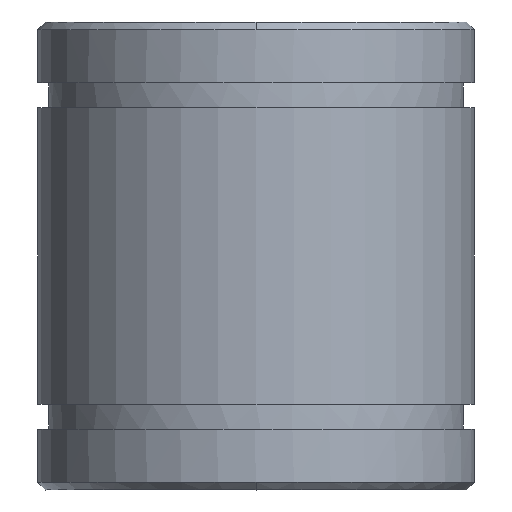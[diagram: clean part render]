
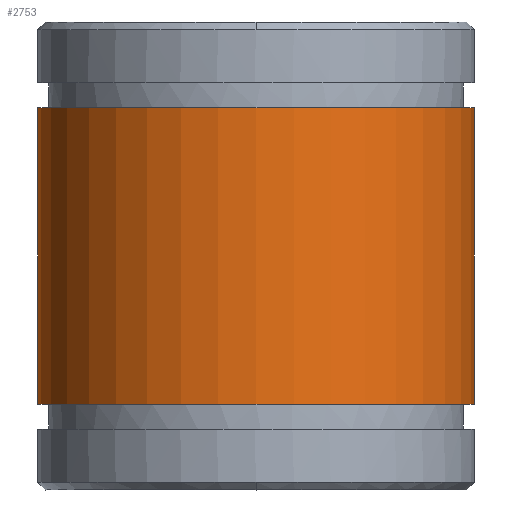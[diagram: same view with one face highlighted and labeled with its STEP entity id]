
A CAD part, front view. The second image highlights one B-rep face of the part: STEP entity #2753.
In plain terms, the highlighted cylindrical face has radius 14 mm (diameter 28 mm), a partial arc.
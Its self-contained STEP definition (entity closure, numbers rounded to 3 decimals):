
#2652=CARTESIAN_POINT('Axis2P3D Location',(0.,0.,5.5)) ;
#2656=CARTESIAN_POINT('Vertex',(-14.,0.,5.5)) ;
#2658=CARTESIAN_POINT('Vertex',(14.,0.,5.5)) ;
#2723=CARTESIAN_POINT('Axis2P3D Location',(0.,0.,-1.5)) ;
#2728=CARTESIAN_POINT('Line Origine',(-14.,0.,-1.5)) ;
#2732=CARTESIAN_POINT('Vertex',(-14.,0.,24.5)) ;
#2735=CARTESIAN_POINT('Line Origine',(14.,0.,-1.5)) ;
#2739=CARTESIAN_POINT('Vertex',(14.,0.,24.5)) ;
#2742=CARTESIAN_POINT('Axis2P3D Location',(0.,0.,24.5)) ;
#2653=DIRECTION('Axis2P3D Direction',(0.,0.,1.)) ;
#2724=DIRECTION('Axis2P3D Direction',(0.,0.,1.)) ;
#2725=DIRECTION('Axis2P3D XDirection',(-1.,0.,0.)) ;
#2729=DIRECTION('Vector Direction',(0.,0.,1.)) ;
#2736=DIRECTION('Vector Direction',(0.,0.,1.)) ;
#2743=DIRECTION('Axis2P3D Direction',(0.,0.,1.)) ;
#2654=AXIS2_PLACEMENT_3D('Circle Axis2P3D',#2652,#2653,$) ;
#2726=AXIS2_PLACEMENT_3D('Cylinder Axis2P3D',#2723,#2724,#2725) ;
#2744=AXIS2_PLACEMENT_3D('Circle Axis2P3D',#2742,#2743,$) ;
#2748=ORIENTED_EDGE('',*,*,#2734,.T.) ;
#2749=ORIENTED_EDGE('',*,*,#2660,.T.) ;
#2750=ORIENTED_EDGE('',*,*,#2741,.F.) ;
#2751=ORIENTED_EDGE('',*,*,#2746,.F.) ;
#2730=VECTOR('Line Direction',#2729,1.) ;
#2737=VECTOR('Line Direction',#2736,1.) ;
#2753=ADVANCED_FACE('MANIFOLD_SOLID_BREP #2066',(#2752),#2727,.T.) ;
#2655=CIRCLE('generated circle',#2654,14.) ;
#2745=CIRCLE('generated circle',#2744,14.) ;
#2727=CYLINDRICAL_SURFACE('generated cylinder',#2726,14.) ;
#2660=EDGE_CURVE('',#2657,#2659,#2655,.T.) ;
#2734=EDGE_CURVE('',#2733,#2657,#2731,.F.) ;
#2741=EDGE_CURVE('',#2740,#2659,#2738,.F.) ;
#2746=EDGE_CURVE('',#2733,#2740,#2745,.T.) ;
#2747=EDGE_LOOP('',(#2748,#2749,#2750,#2751)) ;
#2752=FACE_OUTER_BOUND('',#2747,.T.) ;
#2731=LINE('Line',#2728,#2730) ;
#2738=LINE('Line',#2735,#2737) ;
#2657=VERTEX_POINT('',#2656) ;
#2659=VERTEX_POINT('',#2658) ;
#2733=VERTEX_POINT('',#2732) ;
#2740=VERTEX_POINT('',#2739) ;
